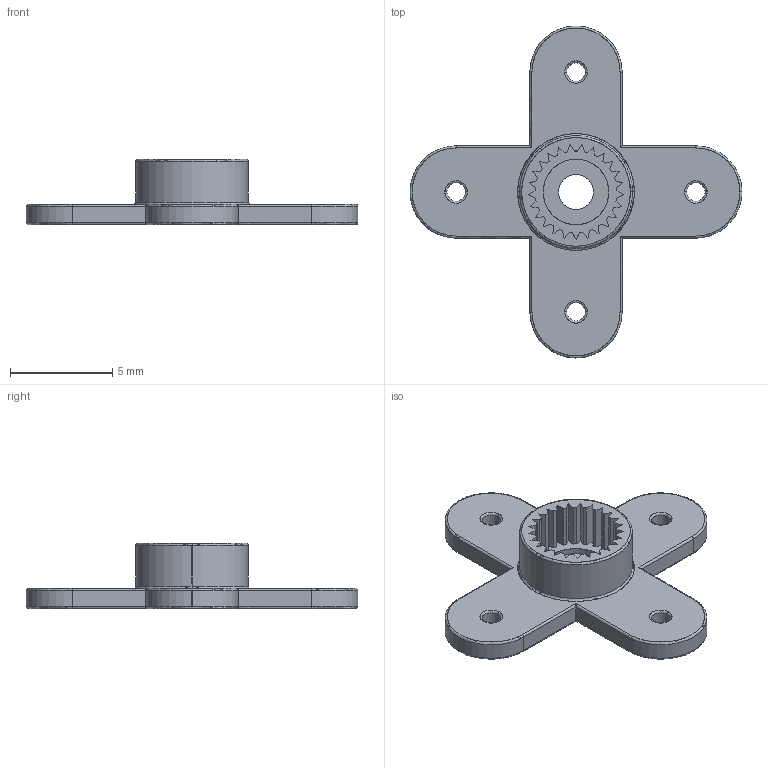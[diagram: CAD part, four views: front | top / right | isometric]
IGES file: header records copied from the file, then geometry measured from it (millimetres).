
Start section: SolidWorks IGES file using analytic representation for surfaces
Global section: file name: C:\Users\Alexandre\Dropbox\Etudes\Solidworks\Servo Mounts\Micro sized Servo Mount - x4_Quatro.igs; native system: SolidWorks 2015; preprocessor: SolidWorks 2015; author: Alexandre; date: 150906.122311; units: millimetre
Bounding box: 16.2 x 16.2 x 3.2 mm (x, y, z)
Surface area: 382.2 mm2 (no closed solid volume)
Topology: 0 solids, 0 shells, 168 faces, 1350 edges, 1350 vertices
Faces by surface type: bspline 106, revolution 62
